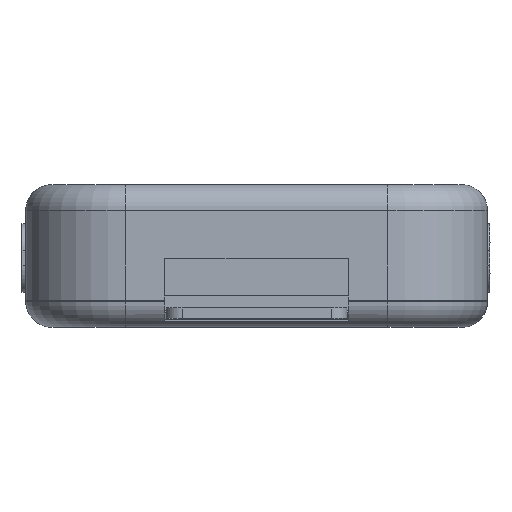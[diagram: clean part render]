
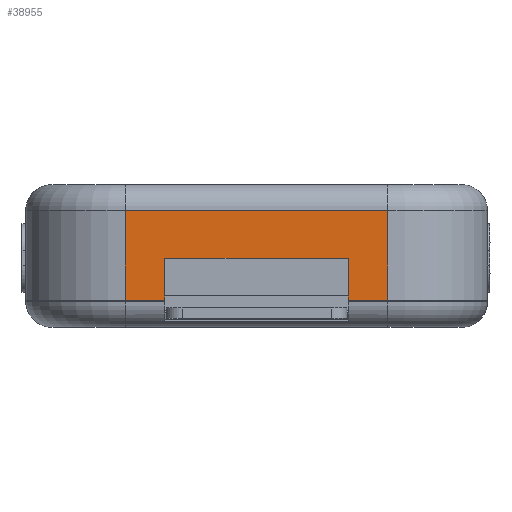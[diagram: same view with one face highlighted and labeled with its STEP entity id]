
A CAD part, front view. The second image highlights one B-rep face of the part: STEP entity #38955.
In plain terms, the highlighted planar face has unit normal (0, -1, 0).
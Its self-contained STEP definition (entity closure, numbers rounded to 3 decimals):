
#37603 = CYLINDRICAL_SURFACE('',#37604,19.);
#37604 = AXIS2_PLACEMENT_3D('',#37605,#37606,#37607);
#37605 = CARTESIAN_POINT('',(-25.,-49.,-14.));
#37606 = DIRECTION('',(0.,0.,1.));
#37607 = DIRECTION('',(-1.,-0.,0.));
#37631 = PLANE('',#37632);
#37632 = AXIS2_PLACEMENT_3D('',#37633,#37634,#37635);
#37633 = CARTESIAN_POINT('',(-100.,-110.,-8.));
#37634 = DIRECTION('',(0.,0.,1.));
#37635 = DIRECTION('',(1.,0.,-0.));
#37768 = VERTEX_POINT('',#37769);
#37769 = CARTESIAN_POINT('',(-25.,-68.,-8.));
#37791 = EDGE_CURVE('',#37768,#37792,#37794,.T.);
#37792 = VERTEX_POINT('',#37793);
#37793 = CARTESIAN_POINT('',(-25.,-68.,9.));
#37794 = SURFACE_CURVE('',#37795,(#37799,#37806),.PCURVE_S1.);
#37795 = LINE('',#37796,#37797);
#37796 = CARTESIAN_POINT('',(-25.,-68.,-14.));
#37797 = VECTOR('',#37798,1.);
#37798 = DIRECTION('',(0.,0.,1.));
#37799 = PCURVE('',#37603,#37800);
#37800 = DEFINITIONAL_REPRESENTATION('',(#37801),#37805);
#37801 = LINE('',#37802,#37803);
#37802 = CARTESIAN_POINT('',(1.571,0.));
#37803 = VECTOR('',#37804,1.);
#37804 = DIRECTION('',(0.,1.));
#37805 = ( GEOMETRIC_REPRESENTATION_CONTEXT(2) 
PARAMETRIC_REPRESENTATION_CONTEXT() REPRESENTATION_CONTEXT('2D SPACE',''
  ) );
#37806 = PCURVE('',#37807,#37812);
#37807 = PLANE('',#37808);
#37808 = AXIS2_PLACEMENT_3D('',#37809,#37810,#37811);
#37809 = CARTESIAN_POINT('',(-44.,-68.,-14.));
#37810 = DIRECTION('',(0.,1.,0.));
#37811 = DIRECTION('',(0.,-0.,1.));
#37812 = DEFINITIONAL_REPRESENTATION('',(#37813),#37817);
#37813 = LINE('',#37814,#37815);
#37814 = CARTESIAN_POINT('',(0.,19.));
#37815 = VECTOR('',#37816,1.);
#37816 = DIRECTION('',(1.,0.));
#37817 = ( GEOMETRIC_REPRESENTATION_CONTEXT(2) 
PARAMETRIC_REPRESENTATION_CONTEXT() REPRESENTATION_CONTEXT('2D SPACE',''
  ) );
#38296 = EDGE_CURVE('',#37768,#38297,#38299,.T.);
#38297 = VERTEX_POINT('',#38298);
#38298 = CARTESIAN_POINT('',(-17.5,-68.,-8.));
#38299 = SURFACE_CURVE('',#38300,(#38304,#38311),.PCURVE_S1.);
#38300 = LINE('',#38301,#38302);
#38301 = CARTESIAN_POINT('',(-72.,-68.,-8.));
#38302 = VECTOR('',#38303,1.);
#38303 = DIRECTION('',(1.,0.,0.));
#38304 = PCURVE('',#37631,#38305);
#38305 = DEFINITIONAL_REPRESENTATION('',(#38306),#38310);
#38306 = LINE('',#38307,#38308);
#38307 = CARTESIAN_POINT('',(28.,42.));
#38308 = VECTOR('',#38309,1.);
#38309 = DIRECTION('',(1.,0.));
#38310 = ( GEOMETRIC_REPRESENTATION_CONTEXT(2) 
PARAMETRIC_REPRESENTATION_CONTEXT() REPRESENTATION_CONTEXT('2D SPACE',''
  ) );
#38311 = PCURVE('',#37807,#38312);
#38312 = DEFINITIONAL_REPRESENTATION('',(#38313),#38317);
#38313 = LINE('',#38314,#38315);
#38314 = CARTESIAN_POINT('',(6.,-28.));
#38315 = VECTOR('',#38316,1.);
#38316 = DIRECTION('',(0.,1.));
#38317 = ( GEOMETRIC_REPRESENTATION_CONTEXT(2) 
PARAMETRIC_REPRESENTATION_CONTEXT() REPRESENTATION_CONTEXT('2D SPACE',''
  ) );
#38335 = PLANE('',#38336);
#38336 = AXIS2_PLACEMENT_3D('',#38337,#38338,#38339);
#38337 = CARTESIAN_POINT('',(-17.5,-74.,-12.));
#38338 = DIRECTION('',(1.,0.,0.));
#38339 = DIRECTION('',(0.,0.,1.));
#38945 = CYLINDRICAL_SURFACE('',#38946,5.);
#38946 = AXIS2_PLACEMENT_3D('',#38947,#38948,#38949);
#38947 = CARTESIAN_POINT('',(25.,-63.,9.));
#38948 = DIRECTION('',(-1.,-0.,-0.));
#38949 = DIRECTION('',(0.,-1.,0.));
#38955 = ADVANCED_FACE('',(#38956),#37807,.F.);
#38956 = FACE_BOUND('',#38957,.F.);
#38957 = EDGE_LOOP('',(#38958,#38959,#38960,#38983,#39011,#39039,#39067,
    #39095));
#38958 = ORIENTED_EDGE('',*,*,#38296,.F.);
#38959 = ORIENTED_EDGE('',*,*,#37791,.T.);
#38960 = ORIENTED_EDGE('',*,*,#38961,.F.);
#38961 = EDGE_CURVE('',#38962,#37792,#38964,.T.);
#38962 = VERTEX_POINT('',#38963);
#38963 = CARTESIAN_POINT('',(25.,-68.,9.));
#38964 = SURFACE_CURVE('',#38965,(#38969,#38976),.PCURVE_S1.);
#38965 = LINE('',#38966,#38967);
#38966 = CARTESIAN_POINT('',(25.,-68.,9.));
#38967 = VECTOR('',#38968,1.);
#38968 = DIRECTION('',(-1.,-0.,-0.));
#38969 = PCURVE('',#37807,#38970);
#38970 = DEFINITIONAL_REPRESENTATION('',(#38971),#38975);
#38971 = LINE('',#38972,#38973);
#38972 = CARTESIAN_POINT('',(23.,69.));
#38973 = VECTOR('',#38974,1.);
#38974 = DIRECTION('',(0.,-1.));
#38975 = ( GEOMETRIC_REPRESENTATION_CONTEXT(2) 
PARAMETRIC_REPRESENTATION_CONTEXT() REPRESENTATION_CONTEXT('2D SPACE',''
  ) );
#38976 = PCURVE('',#38945,#38977);
#38977 = DEFINITIONAL_REPRESENTATION('',(#38978),#38982);
#38978 = LINE('',#38979,#38980);
#38979 = CARTESIAN_POINT('',(0.,0.));
#38980 = VECTOR('',#38981,1.);
#38981 = DIRECTION('',(0.,1.));
#38982 = ( GEOMETRIC_REPRESENTATION_CONTEXT(2) 
PARAMETRIC_REPRESENTATION_CONTEXT() REPRESENTATION_CONTEXT('2D SPACE',''
  ) );
#38983 = ORIENTED_EDGE('',*,*,#38984,.F.);
#38984 = EDGE_CURVE('',#38985,#38962,#38987,.T.);
#38985 = VERTEX_POINT('',#38986);
#38986 = CARTESIAN_POINT('',(25.,-68.,-8.));
#38987 = SURFACE_CURVE('',#38988,(#38992,#38999),.PCURVE_S1.);
#38988 = LINE('',#38989,#38990);
#38989 = CARTESIAN_POINT('',(25.,-68.,-14.));
#38990 = VECTOR('',#38991,1.);
#38991 = DIRECTION('',(0.,0.,1.));
#38992 = PCURVE('',#37807,#38993);
#38993 = DEFINITIONAL_REPRESENTATION('',(#38994),#38998);
#38994 = LINE('',#38995,#38996);
#38995 = CARTESIAN_POINT('',(0.,69.));
#38996 = VECTOR('',#38997,1.);
#38997 = DIRECTION('',(1.,0.));
#38998 = ( GEOMETRIC_REPRESENTATION_CONTEXT(2) 
PARAMETRIC_REPRESENTATION_CONTEXT() REPRESENTATION_CONTEXT('2D SPACE',''
  ) );
#38999 = PCURVE('',#39000,#39005);
#39000 = CYLINDRICAL_SURFACE('',#39001,19.);
#39001 = AXIS2_PLACEMENT_3D('',#39002,#39003,#39004);
#39002 = CARTESIAN_POINT('',(25.,-49.,-14.));
#39003 = DIRECTION('',(0.,0.,1.));
#39004 = DIRECTION('',(1.,0.,-0.));
#39005 = DEFINITIONAL_REPRESENTATION('',(#39006),#39010);
#39006 = LINE('',#39007,#39008);
#39007 = CARTESIAN_POINT('',(4.712,0.));
#39008 = VECTOR('',#39009,1.);
#39009 = DIRECTION('',(-0.,1.));
#39010 = ( GEOMETRIC_REPRESENTATION_CONTEXT(2) 
PARAMETRIC_REPRESENTATION_CONTEXT() REPRESENTATION_CONTEXT('2D SPACE',''
  ) );
#39011 = ORIENTED_EDGE('',*,*,#39012,.F.);
#39012 = EDGE_CURVE('',#39013,#38985,#39015,.T.);
#39013 = VERTEX_POINT('',#39014);
#39014 = CARTESIAN_POINT('',(17.5,-68.,-8.));
#39015 = SURFACE_CURVE('',#39016,(#39020,#39027),.PCURVE_S1.);
#39016 = LINE('',#39017,#39018);
#39017 = CARTESIAN_POINT('',(-72.,-68.,-8.));
#39018 = VECTOR('',#39019,1.);
#39019 = DIRECTION('',(1.,0.,0.));
#39020 = PCURVE('',#37807,#39021);
#39021 = DEFINITIONAL_REPRESENTATION('',(#39022),#39026);
#39022 = LINE('',#39023,#39024);
#39023 = CARTESIAN_POINT('',(6.,-28.));
#39024 = VECTOR('',#39025,1.);
#39025 = DIRECTION('',(0.,1.));
#39026 = ( GEOMETRIC_REPRESENTATION_CONTEXT(2) 
PARAMETRIC_REPRESENTATION_CONTEXT() REPRESENTATION_CONTEXT('2D SPACE',''
  ) );
#39027 = PCURVE('',#39028,#39033);
#39028 = PLANE('',#39029);
#39029 = AXIS2_PLACEMENT_3D('',#39030,#39031,#39032);
#39030 = CARTESIAN_POINT('',(-100.,-110.,-8.));
#39031 = DIRECTION('',(0.,0.,1.));
#39032 = DIRECTION('',(1.,0.,-0.));
#39033 = DEFINITIONAL_REPRESENTATION('',(#39034),#39038);
#39034 = LINE('',#39035,#39036);
#39035 = CARTESIAN_POINT('',(28.,42.));
#39036 = VECTOR('',#39037,1.);
#39037 = DIRECTION('',(1.,0.));
#39038 = ( GEOMETRIC_REPRESENTATION_CONTEXT(2) 
PARAMETRIC_REPRESENTATION_CONTEXT() REPRESENTATION_CONTEXT('2D SPACE',''
  ) );
#39039 = ORIENTED_EDGE('',*,*,#39040,.F.);
#39040 = EDGE_CURVE('',#39041,#39013,#39043,.T.);
#39041 = VERTEX_POINT('',#39042);
#39042 = CARTESIAN_POINT('',(17.5,-68.,0.));
#39043 = SURFACE_CURVE('',#39044,(#39048,#39055),.PCURVE_S1.);
#39044 = LINE('',#39045,#39046);
#39045 = CARTESIAN_POINT('',(17.5,-68.,-13.));
#39046 = VECTOR('',#39047,1.);
#39047 = DIRECTION('',(0.,0.,-1.));
#39048 = PCURVE('',#37807,#39049);
#39049 = DEFINITIONAL_REPRESENTATION('',(#39050),#39054);
#39050 = LINE('',#39051,#39052);
#39051 = CARTESIAN_POINT('',(1.,61.5));
#39052 = VECTOR('',#39053,1.);
#39053 = DIRECTION('',(-1.,0.));
#39054 = ( GEOMETRIC_REPRESENTATION_CONTEXT(2) 
PARAMETRIC_REPRESENTATION_CONTEXT() REPRESENTATION_CONTEXT('2D SPACE',''
  ) );
#39055 = PCURVE('',#39056,#39061);
#39056 = PLANE('',#39057);
#39057 = AXIS2_PLACEMENT_3D('',#39058,#39059,#39060);
#39058 = CARTESIAN_POINT('',(17.5,-74.,-12.));
#39059 = DIRECTION('',(1.,0.,0.));
#39060 = DIRECTION('',(0.,0.,1.));
#39061 = DEFINITIONAL_REPRESENTATION('',(#39062),#39066);
#39062 = LINE('',#39063,#39064);
#39063 = CARTESIAN_POINT('',(-1.,-6.));
#39064 = VECTOR('',#39065,1.);
#39065 = DIRECTION('',(-1.,0.));
#39066 = ( GEOMETRIC_REPRESENTATION_CONTEXT(2) 
PARAMETRIC_REPRESENTATION_CONTEXT() REPRESENTATION_CONTEXT('2D SPACE',''
  ) );
#39067 = ORIENTED_EDGE('',*,*,#39068,.F.);
#39068 = EDGE_CURVE('',#39069,#39041,#39071,.T.);
#39069 = VERTEX_POINT('',#39070);
#39070 = CARTESIAN_POINT('',(-17.5,-68.,0.));
#39071 = SURFACE_CURVE('',#39072,(#39076,#39083),.PCURVE_S1.);
#39072 = LINE('',#39073,#39074);
#39073 = CARTESIAN_POINT('',(-30.75,-68.,0.));
#39074 = VECTOR('',#39075,1.);
#39075 = DIRECTION('',(1.,0.,0.));
#39076 = PCURVE('',#37807,#39077);
#39077 = DEFINITIONAL_REPRESENTATION('',(#39078),#39082);
#39078 = LINE('',#39079,#39080);
#39079 = CARTESIAN_POINT('',(14.,13.25));
#39080 = VECTOR('',#39081,1.);
#39081 = DIRECTION('',(0.,1.));
#39082 = ( GEOMETRIC_REPRESENTATION_CONTEXT(2) 
PARAMETRIC_REPRESENTATION_CONTEXT() REPRESENTATION_CONTEXT('2D SPACE',''
  ) );
#39083 = PCURVE('',#39084,#39089);
#39084 = PLANE('',#39085);
#39085 = AXIS2_PLACEMENT_3D('',#39086,#39087,#39088);
#39086 = CARTESIAN_POINT('',(-17.5,-74.,0.));
#39087 = DIRECTION('',(0.,0.,1.));
#39088 = DIRECTION('',(1.,0.,-0.));
#39089 = DEFINITIONAL_REPRESENTATION('',(#39090),#39094);
#39090 = LINE('',#39091,#39092);
#39091 = CARTESIAN_POINT('',(-13.25,6.));
#39092 = VECTOR('',#39093,1.);
#39093 = DIRECTION('',(1.,0.));
#39094 = ( GEOMETRIC_REPRESENTATION_CONTEXT(2) 
PARAMETRIC_REPRESENTATION_CONTEXT() REPRESENTATION_CONTEXT('2D SPACE',''
  ) );
#39095 = ORIENTED_EDGE('',*,*,#39096,.T.);
#39096 = EDGE_CURVE('',#39069,#38297,#39097,.T.);
#39097 = SURFACE_CURVE('',#39098,(#39102,#39109),.PCURVE_S1.);
#39098 = LINE('',#39099,#39100);
#39099 = CARTESIAN_POINT('',(-17.5,-68.,-13.));
#39100 = VECTOR('',#39101,1.);
#39101 = DIRECTION('',(0.,0.,-1.));
#39102 = PCURVE('',#37807,#39103);
#39103 = DEFINITIONAL_REPRESENTATION('',(#39104),#39108);
#39104 = LINE('',#39105,#39106);
#39105 = CARTESIAN_POINT('',(1.,26.5));
#39106 = VECTOR('',#39107,1.);
#39107 = DIRECTION('',(-1.,0.));
#39108 = ( GEOMETRIC_REPRESENTATION_CONTEXT(2) 
PARAMETRIC_REPRESENTATION_CONTEXT() REPRESENTATION_CONTEXT('2D SPACE',''
  ) );
#39109 = PCURVE('',#38335,#39110);
#39110 = DEFINITIONAL_REPRESENTATION('',(#39111),#39115);
#39111 = LINE('',#39112,#39113);
#39112 = CARTESIAN_POINT('',(-1.,-6.));
#39113 = VECTOR('',#39114,1.);
#39114 = DIRECTION('',(-1.,0.));
#39115 = ( GEOMETRIC_REPRESENTATION_CONTEXT(2) 
PARAMETRIC_REPRESENTATION_CONTEXT() REPRESENTATION_CONTEXT('2D SPACE',''
  ) );
